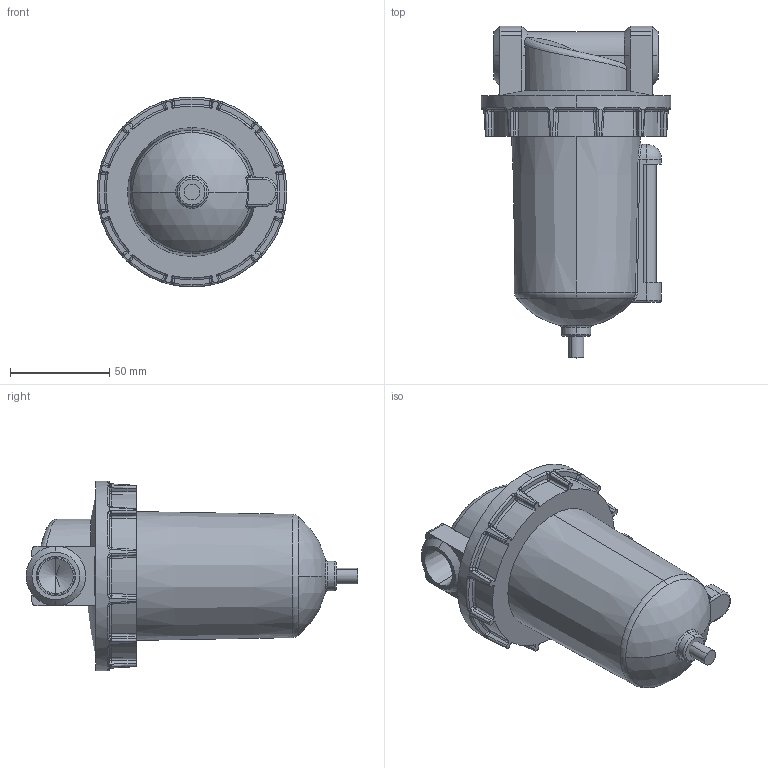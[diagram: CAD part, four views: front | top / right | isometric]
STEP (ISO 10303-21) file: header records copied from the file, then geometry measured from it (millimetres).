
FILE_DESCRIPTION (( 'STEP AP203' ), '1' );
FILE_NAME ('F602W-04#YB#.STEP', '2016-01-14T18:01:56', ( '' ), ( '' ), 'SwSTEP 2.0', 'SolidWorks 2014', '' );
FILE_SCHEMA (( 'CONFIG_CONTROL_DESIGN' ));
Length unit declared in the file: millimetre
Products named in the file (5): F602W-04#YB#; L606-W-06-5; L606-W-06-2; F602-04-上; L606-W-04-下
Assembly tree (4 placements, depth 2):
  F602W-04#YB#
    F602-04-上
    L606-W-06-2
    L606-W-06-5
    L606-W-04-下
Bounding box: 95.5 x 167 x 95.5 mm (x, y, z)
Volume: 489842.5 mm3; surface area: 57917.6 mm2
Topology: 4 solids, 4 shells, 350 faces, 870 edges, 504 vertices
Faces by surface type: bspline 105, plane 79, cylinder 66, torus 37, sphere 33, cone 30
Entity records: 13894 total; most frequent: CARTESIAN_POINT 6096, ORIENTED_EDGE 1680, DIRECTION 1381, EDGE_CURVE 840, AXIS2_PLACEMENT_3D 600, VERTEX_POINT 503, EDGE_LOOP 355, ADVANCED_FACE 350
